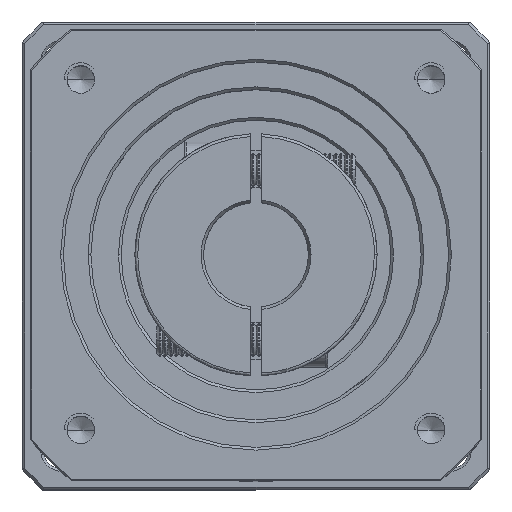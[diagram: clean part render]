
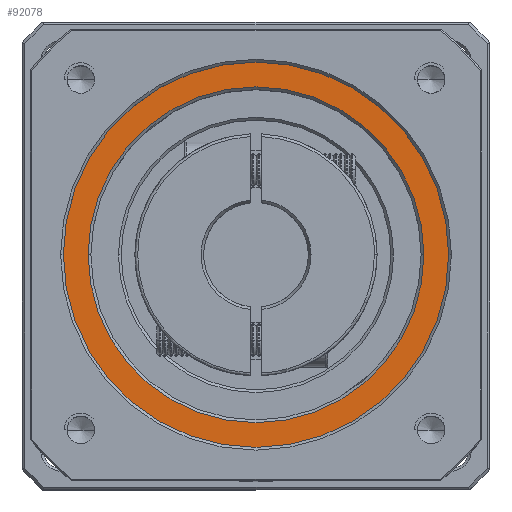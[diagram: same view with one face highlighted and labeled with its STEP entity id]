
A CAD part, top view. The second image highlights one B-rep face of the part: STEP entity #92078.
In plain terms, the highlighted planar face has unit normal (0, 0, 1).
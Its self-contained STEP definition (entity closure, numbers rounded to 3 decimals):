
#4939 = CARTESIAN_POINT ( 'NONE',  ( -47.832, 33.92, 38.171 ) ) ;
#5041 = ORIENTED_EDGE ( 'NONE', *, *, #84127, .T. ) ;
#5903 = CIRCLE ( 'NONE', #34057, 35. ) ;
#13824 = VERTEX_POINT ( 'NONE', #63278 ) ;
#16553 = CIRCLE ( 'NONE', #96767, 35. ) ;
#16851 = PLANE ( 'NONE',  #65618 ) ;
#21637 = CARTESIAN_POINT ( 'NONE',  ( -82.832, 33.92, 38.171 ) ) ;
#22745 = CIRCLE ( 'NONE', #40974, 30.5 ) ;
#27130 = EDGE_CURVE ( 'NONE', #74295, #76798, #22745, .T. ) ;
#30678 = DIRECTION ( 'NONE',  ( 1., 0., 0. ) ) ;
#31836 = DIRECTION ( 'NONE',  ( 0., 0., -1. ) ) ;
#34057 = AXIS2_PLACEMENT_3D ( 'NONE', #99843, #46101, #108762 ) ;
#34796 = EDGE_LOOP ( 'NONE', ( #47359, #86887 ) ) ;
#40135 = FACE_BOUND ( 'NONE', #51712, .T. ) ;
#40974 = AXIS2_PLACEMENT_3D ( 'NONE', #44869, #107534, #53912 ) ;
#44869 = CARTESIAN_POINT ( 'NONE',  ( -82.832, 33.92, 38.171 ) ) ;
#46101 = DIRECTION ( 'NONE',  ( 0., 0., 1. ) ) ;
#47359 = ORIENTED_EDGE ( 'NONE', *, *, #88440, .T. ) ;
#51712 = EDGE_LOOP ( 'NONE', ( #5041, #65934 ) ) ;
#51829 = CARTESIAN_POINT ( 'NONE',  ( -52.332, 33.92, 38.171 ) ) ;
#52914 = CARTESIAN_POINT ( 'NONE',  ( -82.832, 33.92, 38.171 ) ) ;
#53912 = DIRECTION ( 'NONE',  ( 1., 0., 0. ) ) ;
#56366 = EDGE_CURVE ( 'NONE', #13824, #73316, #5903, .T. ) ;
#60439 = CARTESIAN_POINT ( 'NONE',  ( -113.332, 33.92, 38.171 ) ) ;
#61907 = DIRECTION ( 'NONE',  ( 1., 0., 0. ) ) ;
#63278 = CARTESIAN_POINT ( 'NONE',  ( -117.832, 33.92, 38.171 ) ) ;
#65618 = AXIS2_PLACEMENT_3D ( 'NONE', #52914, #115499, #61907 ) ;
#65934 = ORIENTED_EDGE ( 'NONE', *, *, #27130, .T. ) ;
#73316 = VERTEX_POINT ( 'NONE', #4939 ) ;
#74295 = VERTEX_POINT ( 'NONE', #60439 ) ;
#76798 = VERTEX_POINT ( 'NONE', #51829 ) ;
#84127 = EDGE_CURVE ( 'NONE', #76798, #74295, #100248, .T. ) ;
#84398 = DIRECTION ( 'NONE',  ( 0., 0., 1. ) ) ;
#85566 = CARTESIAN_POINT ( 'NONE',  ( -82.832, 33.92, 38.171 ) ) ;
#86887 = ORIENTED_EDGE ( 'NONE', *, *, #56366, .T. ) ;
#88440 = EDGE_CURVE ( 'NONE', #73316, #13824, #16553, .T. ) ;
#90702 = FACE_OUTER_BOUND ( 'NONE', #34796, .T. ) ;
#92078 = ADVANCED_FACE ( 'NONE', ( #90702, #40135 ), #16851, .T. ) ;
#94595 = DIRECTION ( 'NONE',  ( 1., 0., 0. ) ) ;
#96767 = AXIS2_PLACEMENT_3D ( 'NONE', #21637, #84398, #30678 ) ;
#99843 = CARTESIAN_POINT ( 'NONE',  ( -82.832, 33.92, 38.171 ) ) ;
#100248 = CIRCLE ( 'NONE', #106621, 30.5 ) ;
#106621 = AXIS2_PLACEMENT_3D ( 'NONE', #85566, #31836, #94595 ) ;
#107534 = DIRECTION ( 'NONE',  ( 0., 0., -1. ) ) ;
#108762 = DIRECTION ( 'NONE',  ( 1., 0., 0. ) ) ;
#115499 = DIRECTION ( 'NONE',  ( 0., 0., 1. ) ) ;
